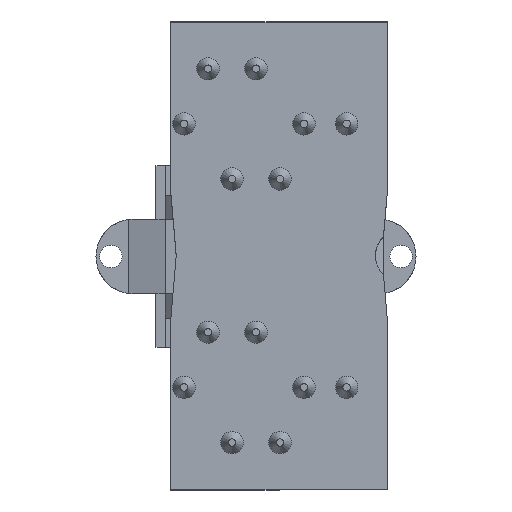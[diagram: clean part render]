
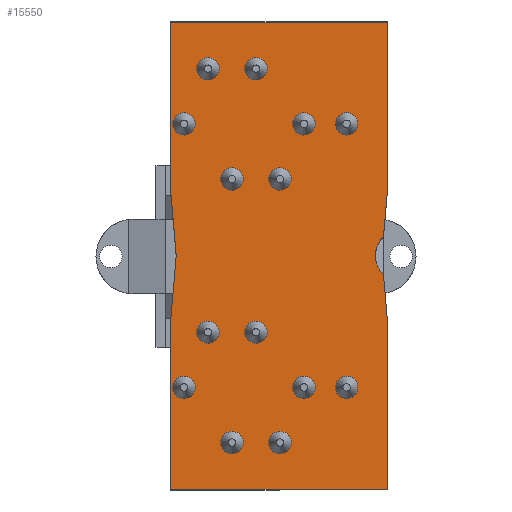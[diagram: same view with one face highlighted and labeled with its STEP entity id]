
A CAD part, top view. The second image highlights one B-rep face of the part: STEP entity #15550.
In plain terms, the highlighted planar face has unit normal (0, 0, 1).
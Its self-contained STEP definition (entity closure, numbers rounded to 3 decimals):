
#97 = ORIENTED_EDGE ( 'NONE', *, *, #6760, .T. ) ;
#485 = AXIS2_PLACEMENT_3D ( 'NONE', #19097, #21107, #792 ) ;
#792 = DIRECTION ( 'NONE',  ( 1., 0., 0. ) ) ;
#1050 = VECTOR ( 'NONE', #14274, 1000. ) ;
#1278 = DIRECTION ( 'NONE',  ( 0., -1., 0. ) ) ;
#1384 = EDGE_CURVE ( 'NONE', #15436, #5446, #4011, .T. ) ;
#3178 = ORIENTED_EDGE ( 'NONE', *, *, #25242, .T. ) ;
#3293 = CARTESIAN_POINT ( 'NONE',  ( -22.833, -17.5, 147.13 ) ) ;
#3344 = CARTESIAN_POINT ( 'NONE',  ( 35.167, 17.5, 147.13 ) ) ;
#3625 = ORIENTED_EDGE ( 'NONE', *, *, #8900, .T. ) ;
#3751 = CARTESIAN_POINT ( 'NONE',  ( 35.167, -62.5, 147.13 ) ) ;
#3990 = LINE ( 'NONE', #12142, #12607 ) ;
#4011 = LINE ( 'NONE', #3751, #9469 ) ;
#4500 = EDGE_CURVE ( 'NONE', #5178, #8651, #14698, .T. ) ;
#4657 = VERTEX_POINT ( 'NONE', #22479 ) ;
#4914 = VERTEX_POINT ( 'NONE', #23123 ) ;
#5178 = VERTEX_POINT ( 'NONE', #20969 ) ;
#5322 = AXIS2_PLACEMENT_3D ( 'NONE', #19684, #19421, #13685 ) ;
#5446 = VERTEX_POINT ( 'NONE', #22634 ) ;
#6760 = EDGE_CURVE ( 'NONE', #5178, #16786, #3990, .T. ) ;
#6765 = EDGE_LOOP ( 'NONE', ( #26354, #97, #21006, #20114, #21740, #23649, #16316, #3178, #3625, #14865, #24747 ) ) ;
#6900 = VECTOR ( 'NONE', #12249, 1000. ) ;
#7163 = LINE ( 'NONE', #3293, #17402 ) ;
#7213 = EDGE_CURVE ( 'NONE', #15157, #18126, #25862, .T. ) ;
#7397 = VECTOR ( 'NONE', #15683, 1000. ) ;
#7517 = CARTESIAN_POINT ( 'NONE',  ( -22.833, -62.5, 147.13 ) ) ;
#7954 = CARTESIAN_POINT ( 'NONE',  ( 34.099, -5.047, 147.13 ) ) ;
#7995 = LINE ( 'NONE', #10118, #1050 ) ;
#8651 = VERTEX_POINT ( 'NONE', #7954 ) ;
#8780 = VECTOR ( 'NONE', #23528, 1000. ) ;
#8900 = EDGE_CURVE ( 'NONE', #4657, #15436, #9509, .T. ) ;
#9023 = CARTESIAN_POINT ( 'NONE',  ( 35.167, 62.5, 147.13 ) ) ;
#9469 = VECTOR ( 'NONE', #20038, 1000. ) ;
#9509 = LINE ( 'NONE', #7517, #8780 ) ;
#9542 = VERTEX_POINT ( 'NONE', #9023 ) ;
#9984 = DIRECTION ( 'NONE',  ( 0.085, 0.996, 0. ) ) ;
#10001 = DIRECTION ( 'NONE',  ( -1., 0., 0. ) ) ;
#10118 = CARTESIAN_POINT ( 'NONE',  ( -21.333, 0., 147.13 ) ) ;
#10948 = FACE_OUTER_BOUND ( 'NONE', #6765, .T. ) ;
#11476 = DIRECTION ( 'NONE',  ( -0.085, 0.996, 0. ) ) ;
#12142 = CARTESIAN_POINT ( 'NONE',  ( 33.667, 0., 147.13 ) ) ;
#12249 = DIRECTION ( 'NONE',  ( 0., 1., 0. ) ) ;
#12552 = LINE ( 'NONE', #16277, #23003 ) ;
#12607 = VECTOR ( 'NONE', #9984, 1000. ) ;
#12868 = CARTESIAN_POINT ( 'NONE',  ( -21.333, 0., 147.13 ) ) ;
#13534 = CARTESIAN_POINT ( 'NONE',  ( -22.833, 17.5, 147.13 ) ) ;
#13623 = CARTESIAN_POINT ( 'NONE',  ( 35.167, -17.5, 147.13 ) ) ;
#13685 = DIRECTION ( 'NONE',  ( 1., 0., 0. ) ) ;
#13850 = EDGE_CURVE ( 'NONE', #9542, #4914, #12552, .T. ) ;
#14135 = VECTOR ( 'NONE', #11476, 1000. ) ;
#14274 = DIRECTION ( 'NONE',  ( -0.085, -0.996, 0. ) ) ;
#14540 = CARTESIAN_POINT ( 'NONE',  ( -22.833, -17.5, 147.13 ) ) ;
#14698 = CIRCLE ( 'NONE', #5322, 6.897 ) ;
#14865 = ORIENTED_EDGE ( 'NONE', *, *, #1384, .T. ) ;
#15157 = VERTEX_POINT ( 'NONE', #13534 ) ;
#15346 = PLANE ( 'NONE',  #485 ) ;
#15436 = VERTEX_POINT ( 'NONE', #22566 ) ;
#15550 = ADVANCED_FACE ( 'NONE', ( #10948 ), #15346, .T. ) ;
#15683 = DIRECTION ( 'NONE',  ( 0., -1., 0. ) ) ;
#15741 = EDGE_CURVE ( 'NONE', #5446, #8651, #19748, .T. ) ;
#16240 = LINE ( 'NONE', #24371, #6900 ) ;
#16277 = CARTESIAN_POINT ( 'NONE',  ( 35.167, 62.5, 147.13 ) ) ;
#16316 = ORIENTED_EDGE ( 'NONE', *, *, #21738, .T. ) ;
#16340 = EDGE_CURVE ( 'NONE', #16786, #9542, #16240, .T. ) ;
#16786 = VERTEX_POINT ( 'NONE', #3344 ) ;
#17093 = VERTEX_POINT ( 'NONE', #14540 ) ;
#17402 = VECTOR ( 'NONE', #1278, 1000. ) ;
#17710 = EDGE_CURVE ( 'NONE', #4914, #15157, #19045, .T. ) ;
#18126 = VERTEX_POINT ( 'NONE', #12868 ) ;
#19045 = LINE ( 'NONE', #25837, #7397 ) ;
#19097 = CARTESIAN_POINT ( 'NONE',  ( 0., 0., 147.13 ) ) ;
#19421 = DIRECTION ( 'NONE',  ( 0., 0., 1. ) ) ;
#19684 = CARTESIAN_POINT ( 'NONE',  ( 38.8, 0., 147.13 ) ) ;
#19748 = LINE ( 'NONE', #13623, #14135 ) ;
#19987 = DIRECTION ( 'NONE',  ( 0.085, -0.996, 0. ) ) ;
#20038 = DIRECTION ( 'NONE',  ( 0., 1., 0. ) ) ;
#20114 = ORIENTED_EDGE ( 'NONE', *, *, #13850, .T. ) ;
#20969 = CARTESIAN_POINT ( 'NONE',  ( 34.099, 5.047, 147.13 ) ) ;
#21006 = ORIENTED_EDGE ( 'NONE', *, *, #16340, .T. ) ;
#21107 = DIRECTION ( 'NONE',  ( 0., 0., 1. ) ) ;
#21738 = EDGE_CURVE ( 'NONE', #18126, #17093, #7995, .T. ) ;
#21740 = ORIENTED_EDGE ( 'NONE', *, *, #17710, .T. ) ;
#22479 = CARTESIAN_POINT ( 'NONE',  ( -22.833, -62.5, 147.13 ) ) ;
#22566 = CARTESIAN_POINT ( 'NONE',  ( 35.167, -62.5, 147.13 ) ) ;
#22634 = CARTESIAN_POINT ( 'NONE',  ( 35.167, -17.5, 147.13 ) ) ;
#23003 = VECTOR ( 'NONE', #10001, 1000. ) ;
#23123 = CARTESIAN_POINT ( 'NONE',  ( -22.833, 62.5, 147.13 ) ) ;
#23528 = DIRECTION ( 'NONE',  ( 1., 0., 0. ) ) ;
#23649 = ORIENTED_EDGE ( 'NONE', *, *, #7213, .T. ) ;
#24250 = CARTESIAN_POINT ( 'NONE',  ( -22.833, 17.5, 147.13 ) ) ;
#24371 = CARTESIAN_POINT ( 'NONE',  ( 35.167, 17.5, 147.13 ) ) ;
#24747 = ORIENTED_EDGE ( 'NONE', *, *, #15741, .T. ) ;
#25242 = EDGE_CURVE ( 'NONE', #17093, #4657, #7163, .T. ) ;
#25837 = CARTESIAN_POINT ( 'NONE',  ( -22.833, 62.5, 147.13 ) ) ;
#25862 = LINE ( 'NONE', #24250, #26255 ) ;
#26255 = VECTOR ( 'NONE', #19987, 1000. ) ;
#26354 = ORIENTED_EDGE ( 'NONE', *, *, #4500, .F. ) ;
